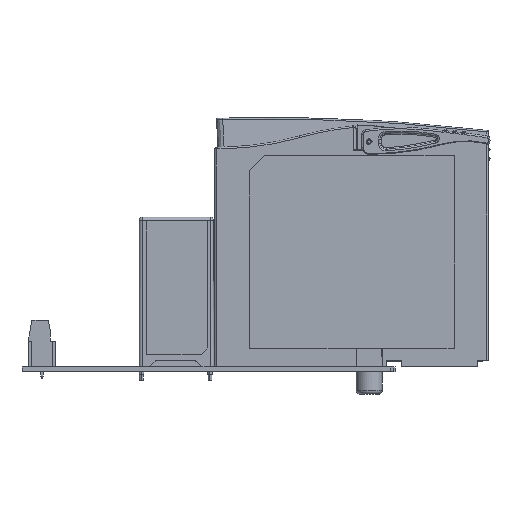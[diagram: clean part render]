
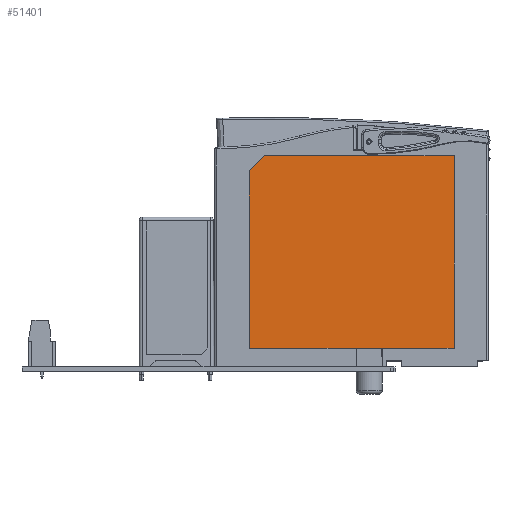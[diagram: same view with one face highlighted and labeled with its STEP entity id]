
A CAD part, front view. The second image highlights one B-rep face of the part: STEP entity #51401.
In plain terms, the highlighted planar face has unit normal (0, -1, 0).
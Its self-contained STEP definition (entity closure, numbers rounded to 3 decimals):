
#13591=DIRECTION('',(-1.,0.,0.));
#13592=VECTOR('',#13591,8.291);
#13593=CARTESIAN_POINT('',(117.745,0.295,-0.885));
#13594=LINE('',#13593,#13592);
#13595=DIRECTION('',(-1.,0.,0.));
#13596=VECTOR('',#13595,35.);
#13597=CARTESIAN_POINT('',(109.35,0.295,-0.885));
#13598=LINE('',#13597,#13596);
#13599=DIRECTION('',(0.,0.,1.));
#13600=VECTOR('',#13599,58.);
#13601=CARTESIAN_POINT('',(74.35,0.295,-0.885));
#13602=LINE('',#13601,#13600);
#13603=DIRECTION('',(0.707,0.,0.707));
#13604=VECTOR('',#13603,7.071);
#13605=CARTESIAN_POINT('',(74.35,0.295,57.115));
#13606=LINE('',#13605,#13604);
#13607=DIRECTION('',(-1.,0.,0.));
#13608=VECTOR('',#13607,23.5);
#13609=CARTESIAN_POINT('',(141.35,0.295,-0.885));
#13610=LINE('',#13609,#13608);
#13615=DIRECTION('',(1.,0.,0.));
#13616=VECTOR('',#13615,0.105);
#13617=CARTESIAN_POINT('',(117.745,0.295,-0.885));
#13618=LINE('',#13617,#13616);
#13627=DIRECTION('',(1.,0.,0.));
#13628=VECTOR('',#13627,0.105);
#13629=CARTESIAN_POINT('',(109.35,0.295,-0.885));
#13630=LINE('',#13629,#13628);
#13727=DIRECTION('',(-1.,0.,0.));
#13728=VECTOR('',#13727,62.);
#13729=CARTESIAN_POINT('',(141.35,0.295,62.115));
#13730=LINE('',#13729,#13728);
#13739=DIRECTION('',(0.,0.,1.));
#13740=VECTOR('',#13739,63.);
#13741=CARTESIAN_POINT('',(141.35,0.295,-0.885));
#13742=LINE('',#13741,#13740);
#30324=CARTESIAN_POINT('',(109.35,0.295,-0.885));
#30326=VERTEX_POINT('',#30324);
#30329=CARTESIAN_POINT('',(74.35,0.295,-0.885));
#30330=VERTEX_POINT('',#30329);
#30331=CARTESIAN_POINT('',(117.85,0.295,-0.885));
#30332=VERTEX_POINT('',#30331);
#30333=CARTESIAN_POINT('',(74.35,0.295,57.115));
#30334=VERTEX_POINT('',#30333);
#30335=CARTESIAN_POINT('',(79.35,0.295,62.115));
#30336=VERTEX_POINT('',#30335);
#30337=CARTESIAN_POINT('',(141.35,0.295,62.115));
#30338=VERTEX_POINT('',#30337);
#30339=CARTESIAN_POINT('',(141.35,0.295,-0.885));
#30340=VERTEX_POINT('',#30339);
#32181=CARTESIAN_POINT('',(117.745,0.295,-0.885));
#32182=CARTESIAN_POINT('',(109.455,0.295,-0.885));
#32183=VERTEX_POINT('',#32181);
#32184=VERTEX_POINT('',#32182);
#51377=CARTESIAN_POINT('',(107.85,0.295,30.615));
#51378=DIRECTION('',(0.,1.,0.));
#51379=DIRECTION('',(0.,0.,-1.));
#51380=AXIS2_PLACEMENT_3D('',#51377,#51378,#51379);
#51381=PLANE('',#51380);
#51382=ORIENTED_EDGE('',*,*,#51369,.T.);
#51384=ORIENTED_EDGE('',*,*,#51383,.F.);
#51386=ORIENTED_EDGE('',*,*,#51385,.T.);
#51388=ORIENTED_EDGE('',*,*,#51387,.T.);
#51390=ORIENTED_EDGE('',*,*,#51389,.T.);
#51392=ORIENTED_EDGE('',*,*,#51391,.F.);
#51394=ORIENTED_EDGE('',*,*,#51393,.F.);
#51396=ORIENTED_EDGE('',*,*,#51395,.T.);
#51398=ORIENTED_EDGE('',*,*,#51397,.F.);
#51399=EDGE_LOOP('',(#51382,#51384,#51386,#51388,#51390,#51392,#51394,#51396,
#51398));
#51400=FACE_OUTER_BOUND('',#51399,.F.);
#51369=EDGE_CURVE('',#32183,#32184,#13594,.T.);
#51383=EDGE_CURVE('',#30326,#32184,#13630,.T.);
#51385=EDGE_CURVE('',#30326,#30330,#13598,.T.);
#51387=EDGE_CURVE('',#30330,#30334,#13602,.T.);
#51389=EDGE_CURVE('',#30334,#30336,#13606,.T.);
#51391=EDGE_CURVE('',#30338,#30336,#13730,.T.);
#51393=EDGE_CURVE('',#30340,#30338,#13742,.T.);
#51395=EDGE_CURVE('',#30340,#30332,#13610,.T.);
#51397=EDGE_CURVE('',#32183,#30332,#13618,.T.);
#51401=ADVANCED_FACE('',(#51400),#51381,.F.);
